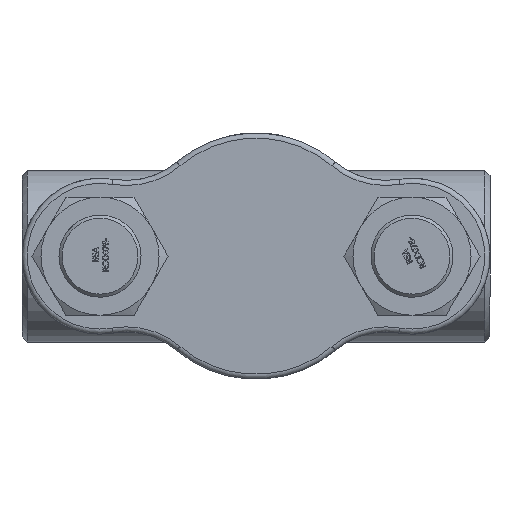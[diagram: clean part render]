
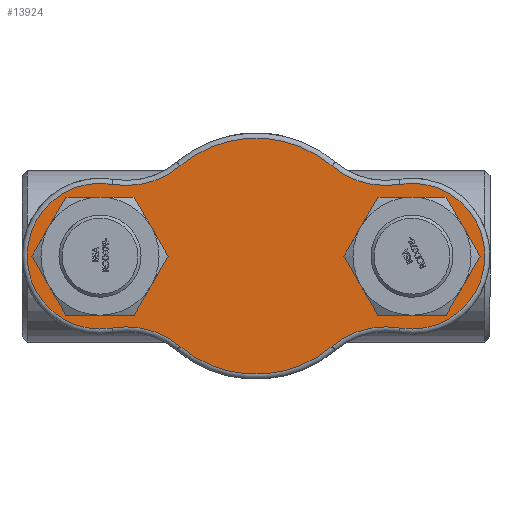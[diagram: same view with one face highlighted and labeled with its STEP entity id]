
A CAD part, front view. The second image highlights one B-rep face of the part: STEP entity #13924.
In plain terms, the highlighted planar face has unit normal (0, -1, 0) as drawn and (0, 0, -1) by its records, which use the part's own axes.
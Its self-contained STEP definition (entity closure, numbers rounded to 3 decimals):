
#3637=PLANE('',#14833);
#4013=FACE_BOUND('',#4928,.T.);
#4014=FACE_BOUND('',#4929,.T.);
#4107=FACE_OUTER_BOUND('',#4927,.T.);
#4927=EDGE_LOOP('',(#9599,#9600,#9601,#9602,#9603,#9604,#9605,#9606));
#4928=EDGE_LOOP('',(#9607));
#4929=EDGE_LOOP('',(#9608));
#5839=CIRCLE('',#14832,47.);
#5840=CIRCLE('',#14834,71.);
#5841=CIRCLE('',#14835,81.);
#5842=CIRCLE('',#14836,115.);
#5843=CIRCLE('',#14837,81.);
#5844=CIRCLE('',#14838,71.);
#5845=CIRCLE('',#14839,81.);
#5846=CIRCLE('',#14840,115.);
#5847=CIRCLE('',#14841,81.);
#5848=CIRCLE('',#14842,47.);
#6019=VERTEX_POINT('',#18090);
#6020=VERTEX_POINT('',#18093);
#6021=VERTEX_POINT('',#18094);
#6022=VERTEX_POINT('',#18096);
#6023=VERTEX_POINT('',#18098);
#6024=VERTEX_POINT('',#18100);
#6025=VERTEX_POINT('',#18102);
#6026=VERTEX_POINT('',#18104);
#6027=VERTEX_POINT('',#18106);
#6028=VERTEX_POINT('',#18109);
#7445=EDGE_CURVE('',#6019,#6019,#5839,.T.);
#7446=EDGE_CURVE('',#6020,#6021,#5840,.T.);
#7447=EDGE_CURVE('',#6022,#6020,#5841,.T.);
#7448=EDGE_CURVE('',#6023,#6022,#5842,.T.);
#7449=EDGE_CURVE('',#6024,#6023,#5843,.T.);
#7450=EDGE_CURVE('',#6025,#6024,#5844,.T.);
#7451=EDGE_CURVE('',#6026,#6025,#5845,.T.);
#7452=EDGE_CURVE('',#6027,#6026,#5846,.T.);
#7453=EDGE_CURVE('',#6021,#6027,#5847,.T.);
#7454=EDGE_CURVE('',#6028,#6028,#5848,.T.);
#9599=ORIENTED_EDGE('',*,*,#7446,.F.);
#9600=ORIENTED_EDGE('',*,*,#7447,.F.);
#9601=ORIENTED_EDGE('',*,*,#7448,.F.);
#9602=ORIENTED_EDGE('',*,*,#7449,.F.);
#9603=ORIENTED_EDGE('',*,*,#7450,.F.);
#9604=ORIENTED_EDGE('',*,*,#7451,.F.);
#9605=ORIENTED_EDGE('',*,*,#7452,.F.);
#9606=ORIENTED_EDGE('',*,*,#7453,.F.);
#9607=ORIENTED_EDGE('',*,*,#7454,.F.);
#9608=ORIENTED_EDGE('',*,*,#7445,.F.);
#13924=ADVANCED_FACE('',(#4107,#4013,#4014),#3637,.F.);
#14832=AXIS2_PLACEMENT_3D('',#18091,#15528,#15529);
#14833=AXIS2_PLACEMENT_3D('',#18092,#15530,#15531);
#14834=AXIS2_PLACEMENT_3D('',#18095,#15532,#15533);
#14835=AXIS2_PLACEMENT_3D('',#18097,#15534,#15535);
#14836=AXIS2_PLACEMENT_3D('',#18099,#15536,#15537);
#14837=AXIS2_PLACEMENT_3D('',#18101,#15538,#15539);
#14838=AXIS2_PLACEMENT_3D('',#18103,#15540,#15541);
#14839=AXIS2_PLACEMENT_3D('',#18105,#15542,#15543);
#14840=AXIS2_PLACEMENT_3D('',#18107,#15544,#15545);
#14841=AXIS2_PLACEMENT_3D('',#18108,#15546,#15547);
#14842=AXIS2_PLACEMENT_3D('',#18110,#15548,#15549);
#15528=DIRECTION('center_axis',(0.,0.,-1.));
#15529=DIRECTION('ref_axis',(1.,0.,0.));
#15530=DIRECTION('center_axis',(0.,0.,1.));
#15531=DIRECTION('ref_axis',(1.,0.,0.));
#15532=DIRECTION('center_axis',(0.,0.,1.));
#15533=DIRECTION('ref_axis',(-1.,0.,0.));
#15534=DIRECTION('center_axis',(0.,0.,-1.));
#15535=DIRECTION('ref_axis',(0.263,-0.965,0.));
#15536=DIRECTION('center_axis',(0.,0.,1.));
#15537=DIRECTION('ref_axis',(0.,1.,0.));
#15538=DIRECTION('center_axis',(0.,0.,-1.));
#15539=DIRECTION('ref_axis',(-0.263,-0.965,0.));
#15540=DIRECTION('center_axis',(0.,0.,1.));
#15541=DIRECTION('ref_axis',(1.,0.,0.));
#15542=DIRECTION('center_axis',(0.,0.,-1.));
#15543=DIRECTION('ref_axis',(-0.263,0.965,0.));
#15544=DIRECTION('center_axis',(0.,0.,1.));
#15545=DIRECTION('ref_axis',(0.,-1.,0.));
#15546=DIRECTION('center_axis',(0.,0.,-1.));
#15547=DIRECTION('ref_axis',(0.263,0.965,0.));
#15548=DIRECTION('center_axis',(0.,0.,-1.));
#15549=DIRECTION('ref_axis',(1.,0.,0.));
#18090=CARTESIAN_POINT('',(105.,0.,0.));
#18091=CARTESIAN_POINT('Origin',(152.,0.,0.));
#18092=CARTESIAN_POINT('Origin',(0.,0.,
0.));
#18093=CARTESIAN_POINT('',(-140.027,69.983,0.));
#18094=CARTESIAN_POINT('',(-140.027,-69.983,0.));
#18095=CARTESIAN_POINT('Origin',(-152.,0.,0.));
#18096=CARTESIAN_POINT('',(-74.145,87.907,0.));
#18097=CARTESIAN_POINT('Origin',(-126.368,149.823,0.));
#18098=CARTESIAN_POINT('',(74.145,87.907,0.));
#18099=CARTESIAN_POINT('Origin',(0.,0.,0.));
#18100=CARTESIAN_POINT('',(140.027,69.983,0.));
#18101=CARTESIAN_POINT('Origin',(126.368,149.823,0.));
#18102=CARTESIAN_POINT('',(140.027,-69.983,0.));
#18103=CARTESIAN_POINT('Origin',(152.,0.,0.));
#18104=CARTESIAN_POINT('',(74.145,-87.907,0.));
#18105=CARTESIAN_POINT('Origin',(126.368,-149.823,0.));
#18106=CARTESIAN_POINT('',(-74.145,-87.907,0.));
#18107=CARTESIAN_POINT('Origin',(0.,0.,0.));
#18108=CARTESIAN_POINT('Origin',(-126.368,-149.823,0.));
#18109=CARTESIAN_POINT('',(-199.,0.,0.));
#18110=CARTESIAN_POINT('Origin',(-152.,0.,0.));
